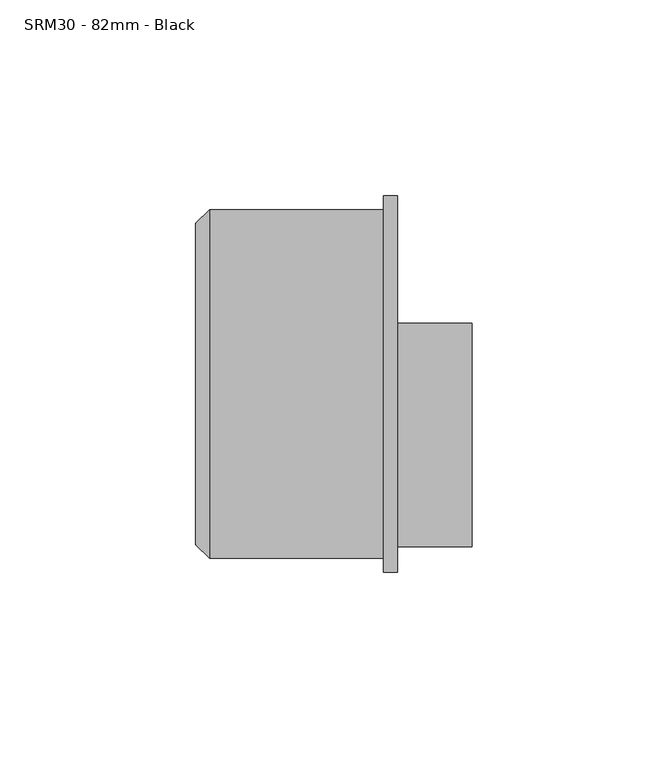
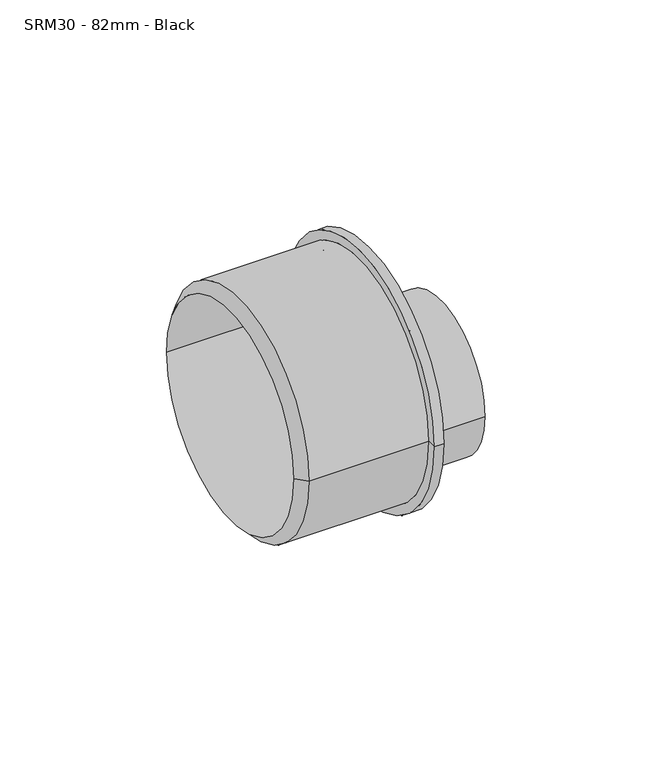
"""IFC4 building model written with IfcOpenShell, lengths in millimetres: pipe fitting geometry, MarleyPlumbingAndDrainage_PipeFitting_EccentricReducer : SRM30 - 82mm - Black."""

from ifc_helpers import new_model, si_unit, frame, origin, place, context, project, spatial, polyline, circle_curve, source, transform, mapped, element, save
from ifc_brep_helpers import plane_surface, cylinder_surface, revolved_surface, advanced_brep


def srm30_82mm_black_274c11a8(model_context):
    return source(origin(), model_context, "Body", "AdvancedBrep", [
        advanced_brep(
        [(-66.3253818, -41.0, 0.0), (-66.3253818, 41.0, 0.0), (-62.8253818, 44.5, 0.0), (-62.8253818, -44.5, 0.0), (-18.3253818, -41.0, 0.0), (-18.3253818, 41.0, 0.0), (-18.3253818, 0.0, 0.0), (-14.8253818, -48.0, 0.0), (-14.8253818, 48.0, 0.0), (-14.8253818, 0.0, 0.0), (-18.3253818, -48.0, 0.0), (-18.3253818, 48.0, 0.0), (-18.3253818, -44.5, 0.0), (-18.3253818, 44.5, 0.0)],
        [
            (0, 1, circle_curve(frame((-66.3253818, 0.0, 0.0), z_axis=(1.0, 0.0, 0.0), x_axis=(0.0, 1.0, 0.0)), 41.0)),
            (1, 2),
            (2, 3, circle_curve(frame((-62.8253818, 0.0, 0.0), z_axis=(-1.0, 0.0, 0.0), x_axis=(0.0, 1.0, 0.0)), 44.5)),
            (3, 0),
            (1, 0, circle_curve(frame((-66.3253818, 0.0, 0.0), z_axis=(1.0, 0.0, 0.0), x_axis=(0.0, 1.0, 0.0)), 41.0)),
            (3, 2, circle_curve(frame((-62.8253818, 0.0, 0.0), z_axis=(-1.0, 0.0, 0.0), x_axis=(0.0, 1.0, 0.0)), 44.5)),
            (4, 5, circle_curve(frame((-18.3253818, 0.0, 0.0), z_axis=(1.0, 0.0, 0.0), x_axis=(0.0, 1.0, 0.0)), 41.0)),
            (5, 1),
            (0, 4),
            (5, 4, circle_curve(frame((-18.3253818, 0.0, 0.0), z_axis=(1.0, 0.0, 0.0), x_axis=(0.0, 1.0, 0.0)), 41.0)),
            (6, 5),
            (4, 6),
            (7, 8, circle_curve(frame((-14.8253818, 0.0, 0.0), z_axis=(1.0, 0.0, 0.0), x_axis=(0.0, 1.0, 0.0)), 48.0)),
            (8, 9),
            (9, 7),
            (8, 7, circle_curve(frame((-14.8253818, 0.0, 0.0), z_axis=(1.0, 0.0, 0.0), x_axis=(0.0, 1.0, 0.0)), 48.0)),
            (10, 11, circle_curve(frame((-18.3253818, 0.0, 0.0), z_axis=(1.0, 0.0, 0.0), x_axis=(0.0, 1.0, 0.0)), 48.0)),
            (11, 8),
            (7, 10),
            (11, 10, circle_curve(frame((-18.3253818, 0.0, 0.0), z_axis=(1.0, 0.0, 0.0), x_axis=(0.0, 1.0, 0.0)), 48.0)),
            (12, 13, circle_curve(frame((-18.3253818, 0.0, 0.0), z_axis=(1.0, 0.0, 0.0), x_axis=(0.0, 1.0, 0.0)), 44.5)),
            (13, 11),
            (10, 12),
            (13, 12, circle_curve(frame((-18.3253818, 0.0, 0.0), z_axis=(1.0, 0.0, 0.0), x_axis=(0.0, 1.0, 0.0)), 44.5)),
            (2, 13),
            (12, 3),
        ],
        [
            revolved_surface(polyline([(-62.8253818, 44.5, 0.0), (-66.3253818, 41.0, 0.0)]), (2000.0, 0.0, 0.0), (-1.0, 0.0, 0.0)),
            revolved_surface(polyline([(-66.32538179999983, 41.0, 0.0), (-18.32538180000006, 41.0, 0.0)]), (2000.0, 0.0, 0.0), (-1.0, 0.0, 0.0)),
            plane_surface(frame((-18.3253818, 0.0, 0.0), z_axis=(-1.0, 0.0, 0.0), x_axis=(0.0, 1.0, 0.0))),
            plane_surface(frame((-14.8253818, 0.0, 0.0), z_axis=(1.0, 0.0, 0.0), x_axis=(0.0, 1.0, 0.0))),
            cylinder_surface(frame((2000.0, 0.0, 0.0), z_axis=(-1.0, 0.0, 0.0), x_axis=(0.0, 1.0, 0.0)), 48.0),
            cylinder_surface(frame((2000.0, 0.0, 0.0), z_axis=(-1.0, 0.0, 0.0), x_axis=(0.0, 1.0, 0.0)), 44.5),
        ],
        [
            (0, [[1, 2, 3, 4]]),
            (0, [[5, -4, 6, -2]]),
            (1, [[7, 8, -1, 9]]),
            (1, [[10, -9, -5, -8]]),
            (2, [[11, -7, 12]]),
            (2, [[-12, -10, -11]]),
            (3, [[13, 14, 15]]),
            (3, [[16, -15, -14]]),
            (4, [[17, 18, -13, 19]]),
            (4, [[20, -19, -16, -18]]),
            (2, [[21, 22, -17, 23]]),
            (2, [[24, -23, -20, -22]]),
            (5, [[-3, 25, -21, 26]]),
            (5, [[-6, -26, -24, -25]]),
        ],
    ),
        advanced_brep(
        [(-14.8253818, -41.5, 0.0), (-14.8253818, 15.5, 0.0), (4.1746182, 15.5, 0.0), (4.1746182, -41.5, 0.0), (-14.8253818, -38.0, 0.0), (-14.8253818, 12.0, 0.0), (4.1746182, -38.0, 0.0), (4.1746182, 12.0, 0.0)],
        [
            (0, 1, circle_curve(frame((-14.8253818, -13.0, 0.0), z_axis=(1.0, 0.0, 0.0), x_axis=(0.0, 1.0, 0.0)), 28.5)),
            (1, 2),
            (2, 3, circle_curve(frame((4.1746182, -13.0, 0.0), z_axis=(-1.0, 0.0, 0.0), x_axis=(0.0, 1.0, 0.0)), 28.5)),
            (3, 0),
            (1, 0, circle_curve(frame((-14.8253818, -13.0, 0.0), z_axis=(1.0, 0.0, 0.0), x_axis=(0.0, 1.0, 0.0)), 28.5)),
            (3, 2, circle_curve(frame((4.1746182, -13.0, 0.0), z_axis=(-1.0, 0.0, 0.0), x_axis=(0.0, 1.0, 0.0)), 28.5)),
            (4, 5, circle_curve(frame((-14.8253818, -13.0, 0.0), z_axis=(1.0, 0.0, 0.0), x_axis=(0.0, 1.0, 0.0)), 25.0)),
            (5, 1),
            (0, 4),
            (5, 4, circle_curve(frame((-14.8253818, -13.0, 0.0), z_axis=(1.0, 0.0, 0.0), x_axis=(0.0, 1.0, 0.0)), 25.0)),
            (6, 7, circle_curve(frame((4.1746182, -13.0, 0.0), z_axis=(1.0, 0.0, 0.0), x_axis=(0.0, 1.0, 0.0)), 25.0)),
            (7, 5),
            (4, 6),
            (7, 6, circle_curve(frame((4.1746182, -13.0, 0.0), z_axis=(1.0, 0.0, 0.0), x_axis=(0.0, 1.0, 0.0)), 25.0)),
            (2, 7),
            (6, 3),
        ],
        [
            cylinder_surface(frame((-79.8021985, -13.0, 0.0), z_axis=(-1.0, 0.0, 0.0), x_axis=(0.0, 1.0, 0.0)), 28.5),
            plane_surface(frame((-14.8253818, -13.0, 0.0), z_axis=(-1.0, 0.0, 0.0), x_axis=(0.0, 1.0, 0.0))),
            revolved_surface(polyline([(-14.825381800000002, 12.0, 0.0), (4.174618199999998, 12.0, 0.0)]), (-79.8021985, -13.0, 0.0), (-1.0, 0.0, 0.0)),
            plane_surface(frame((4.1746182, -13.0, 0.0), z_axis=(1.0, 0.0, 0.0), x_axis=(0.0, 1.0, 0.0))),
        ],
        [
            (0, [[1, 2, 3, 4]]),
            (0, [[5, -4, 6, -2]]),
            (1, [[7, 8, -1, 9]]),
            (1, [[10, -9, -5, -8]]),
            (2, [[11, 12, -7, 13]]),
            (2, [[14, -13, -10, -12]]),
            (3, [[-3, 15, -11, 16]]),
            (3, [[-6, -16, -14, -15]]),
        ],
    ),
    ])


if __name__ == "__main__":
    model = new_model("IFC4")
    model_context = context("Model", 3, world=origin())
    ifc_project = project(units=[si_unit("LENGTHUNIT", "METRE", prefix="MILLI")], contexts=[model_context])
    site = spatial("IfcSite", under=ifc_project)
    building = spatial("IfcBuilding", under=site)
    placement = place(None, origin())
    srm30_82mm_black_shape = srm30_82mm_black_274c11a8(model_context)
    element("IfcPipeFitting", 1, ObjectType="MarleyPlumbingAndDrainage_PipeFitting_EccentricReducer : SRM30 - 82mm - Black", at=placement, inside=building, context=model_context, shape_type="MappedRepresentation", body=[
        mapped(srm30_82mm_black_shape, transform((0.0, 0.0, 0.0), x_axis=(1.0, 0.0, 0.0), y_axis=(0.0, 1.0, 0.0), z_axis=(0.0, 0.0, 1.0))),
    ])
    save(model, "model.ifc")
